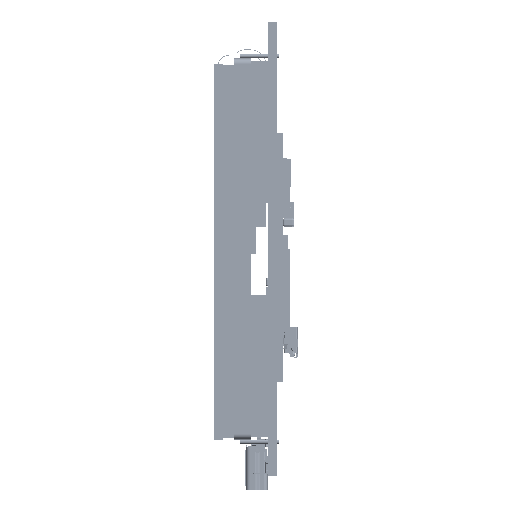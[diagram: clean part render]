
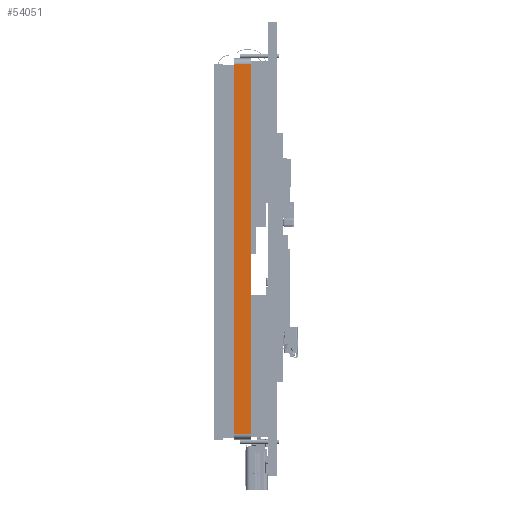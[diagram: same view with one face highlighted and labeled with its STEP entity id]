
A CAD part, left-side view. The second image highlights one B-rep face of the part: STEP entity #54051.
In plain terms, the highlighted planar face has unit normal (-1, 0, 0).
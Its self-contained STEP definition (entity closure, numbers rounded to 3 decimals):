
#2513 = VECTOR ( 'NONE', #98204, 1000. ) ;
#4601 = VERTEX_POINT ( 'NONE', #187878 ) ;
#5401 = AXIS2_PLACEMENT_3D ( 'NONE', #76073, #17084, #120879 ) ;
#7189 = LINE ( 'NONE', #128000, #2513 ) ;
#11175 = LINE ( 'NONE', #29582, #85377 ) ;
#15157 = PLANE ( 'NONE',  #5401 ) ;
#17084 = DIRECTION ( 'NONE',  ( 1., 0., 0. ) ) ;
#25899 = EDGE_CURVE ( 'NONE', #180667, #4601, #7189, .T. ) ;
#29582 = CARTESIAN_POINT ( 'NONE',  ( -51.19, 7.55, -21.385 ) ) ;
#30368 = LINE ( 'NONE', #87241, #144030 ) ;
#44416 = DIRECTION ( 'NONE',  ( 0., -1., 0. ) ) ;
#52115 = EDGE_LOOP ( 'NONE', ( #171271, #64879, #60073, #186471 ) ) ;
#54051 = ADVANCED_FACE ( 'NONE', ( #105441 ), #15157, .F. ) ;
#57493 = CARTESIAN_POINT ( 'NONE',  ( -51.19, 4.6, -21.385 ) ) ;
#59064 = EDGE_CURVE ( 'NONE', #130955, #151472, #95713, .T. ) ;
#60073 = ORIENTED_EDGE ( 'NONE', *, *, #25899, .F. ) ;
#64879 = ORIENTED_EDGE ( 'NONE', *, *, #140543, .T. ) ;
#76073 = CARTESIAN_POINT ( 'NONE',  ( -51.19, 7.55, -22.385 ) ) ;
#85377 = VECTOR ( 'NONE', #44416, 1000. ) ;
#87241 = CARTESIAN_POINT ( 'NONE',  ( -51.19, 7.55, 43.815 ) ) ;
#95713 = LINE ( 'NONE', #119113, #155916 ) ;
#98204 = DIRECTION ( 'NONE',  ( 0., 0., 1. ) ) ;
#102232 = DIRECTION ( 'NONE',  ( 0., 1., 0. ) ) ;
#105441 = FACE_OUTER_BOUND ( 'NONE', #52115, .T. ) ;
#112833 = CARTESIAN_POINT ( 'NONE',  ( -51.19, 4.6, 43.815 ) ) ;
#119113 = CARTESIAN_POINT ( 'NONE',  ( -51.19, 4.6, -22.385 ) ) ;
#120879 = DIRECTION ( 'NONE',  ( 0., 0., -1. ) ) ;
#128000 = CARTESIAN_POINT ( 'NONE',  ( -51.19, 7.55, -22.385 ) ) ;
#130955 = VERTEX_POINT ( 'NONE', #57493 ) ;
#134001 = DIRECTION ( 'NONE',  ( 0., 0., 1. ) ) ;
#135181 = EDGE_CURVE ( 'NONE', #180667, #130955, #11175, .T. ) ;
#140543 = EDGE_CURVE ( 'NONE', #151472, #4601, #30368, .T. ) ;
#144030 = VECTOR ( 'NONE', #102232, 1000. ) ;
#151472 = VERTEX_POINT ( 'NONE', #112833 ) ;
#155916 = VECTOR ( 'NONE', #134001, 1000. ) ;
#165224 = CARTESIAN_POINT ( 'NONE',  ( -51.19, 7.55, -21.385 ) ) ;
#171271 = ORIENTED_EDGE ( 'NONE', *, *, #59064, .T. ) ;
#180667 = VERTEX_POINT ( 'NONE', #165224 ) ;
#186471 = ORIENTED_EDGE ( 'NONE', *, *, #135181, .T. ) ;
#187878 = CARTESIAN_POINT ( 'NONE',  ( -51.19, 7.55, 43.815 ) ) ;
